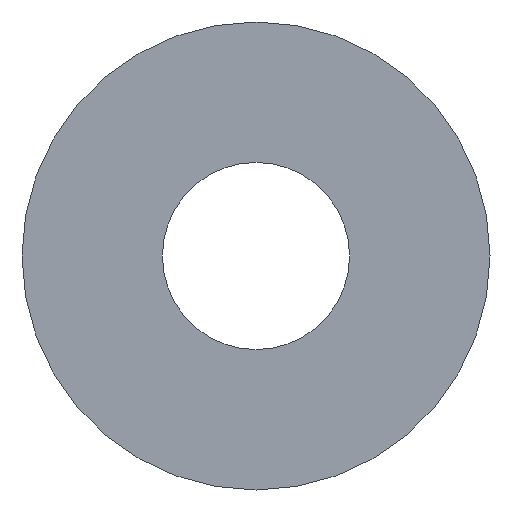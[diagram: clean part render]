
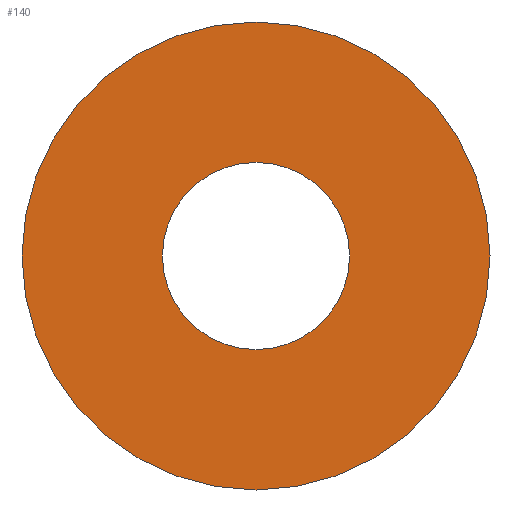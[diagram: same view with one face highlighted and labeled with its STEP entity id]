
A CAD part, left-side view. The second image highlights one B-rep face of the part: STEP entity #140.
In plain terms, the highlighted planar face has unit normal (-1, 0, 0).
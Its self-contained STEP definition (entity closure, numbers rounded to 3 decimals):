
#31 = CYLINDRICAL_SURFACE('',#32,30.);
#32 = AXIS2_PLACEMENT_3D('',#33,#34,#35);
#33 = CARTESIAN_POINT('',(-259.,0.,0.));
#34 = DIRECTION('',(1.,0.,0.));
#35 = DIRECTION('',(-0.,0.,1.));
#56 = VERTEX_POINT('',#57);
#57 = CARTESIAN_POINT('',(-259.,0.,30.));
#78 = EDGE_CURVE('',#56,#56,#79,.T.);
#79 = SURFACE_CURVE('',#80,(#85,#92),.PCURVE_S1.);
#80 = CIRCLE('',#81,30.);
#81 = AXIS2_PLACEMENT_3D('',#82,#83,#84);
#82 = CARTESIAN_POINT('',(-259.,0.,0.));
#83 = DIRECTION('',(1.,0.,0.));
#84 = DIRECTION('',(-0.,0.,1.));
#85 = PCURVE('',#31,#86);
#86 = DEFINITIONAL_REPRESENTATION('',(#87),#91);
#87 = LINE('',#88,#89);
#88 = CARTESIAN_POINT('',(0.,0.));
#89 = VECTOR('',#90,1.);
#90 = DIRECTION('',(1.,0.));
#91 = ( GEOMETRIC_REPRESENTATION_CONTEXT(2) 
PARAMETRIC_REPRESENTATION_CONTEXT() REPRESENTATION_CONTEXT('2D SPACE',''
  ) );
#92 = PCURVE('',#93,#98);
#93 = PLANE('',#94);
#94 = AXIS2_PLACEMENT_3D('',#95,#96,#97);
#95 = CARTESIAN_POINT('',(-259.,0.,0.));
#96 = DIRECTION('',(1.,0.,0.));
#97 = DIRECTION('',(-0.,0.,1.));
#98 = DEFINITIONAL_REPRESENTATION('',(#99),#103);
#99 = CIRCLE('',#100,30.);
#100 = AXIS2_PLACEMENT_2D('',#101,#102);
#101 = CARTESIAN_POINT('',(0.,0.));
#102 = DIRECTION('',(1.,0.));
#103 = ( GEOMETRIC_REPRESENTATION_CONTEXT(2) 
PARAMETRIC_REPRESENTATION_CONTEXT() REPRESENTATION_CONTEXT('2D SPACE',''
  ) );
#129 = CYLINDRICAL_SURFACE('',#130,12.);
#130 = AXIS2_PLACEMENT_3D('',#131,#132,#133);
#131 = CARTESIAN_POINT('',(-260.,0.,0.));
#132 = DIRECTION('',(1.,0.,0.));
#133 = DIRECTION('',(-0.,0.,1.));
#140 = ADVANCED_FACE('',(#141,#144),#93,.F.);
#141 = FACE_BOUND('',#142,.F.);
#142 = EDGE_LOOP('',(#143));
#143 = ORIENTED_EDGE('',*,*,#78,.T.);
#144 = FACE_BOUND('',#145,.F.);
#145 = EDGE_LOOP('',(#146));
#146 = ORIENTED_EDGE('',*,*,#147,.F.);
#147 = EDGE_CURVE('',#148,#148,#150,.T.);
#148 = VERTEX_POINT('',#149);
#149 = CARTESIAN_POINT('',(-259.,0.,12.));
#150 = SURFACE_CURVE('',#151,(#156,#163),.PCURVE_S1.);
#151 = CIRCLE('',#152,12.);
#152 = AXIS2_PLACEMENT_3D('',#153,#154,#155);
#153 = CARTESIAN_POINT('',(-259.,0.,0.));
#154 = DIRECTION('',(1.,0.,0.));
#155 = DIRECTION('',(-0.,0.,1.));
#156 = PCURVE('',#93,#157);
#157 = DEFINITIONAL_REPRESENTATION('',(#158),#162);
#158 = CIRCLE('',#159,12.);
#159 = AXIS2_PLACEMENT_2D('',#160,#161);
#160 = CARTESIAN_POINT('',(0.,0.));
#161 = DIRECTION('',(1.,0.));
#162 = ( GEOMETRIC_REPRESENTATION_CONTEXT(2) 
PARAMETRIC_REPRESENTATION_CONTEXT() REPRESENTATION_CONTEXT('2D SPACE',''
  ) );
#163 = PCURVE('',#129,#164);
#164 = DEFINITIONAL_REPRESENTATION('',(#165),#169);
#165 = LINE('',#166,#167);
#166 = CARTESIAN_POINT('',(0.,1.));
#167 = VECTOR('',#168,1.);
#168 = DIRECTION('',(1.,0.));
#169 = ( GEOMETRIC_REPRESENTATION_CONTEXT(2) 
PARAMETRIC_REPRESENTATION_CONTEXT() REPRESENTATION_CONTEXT('2D SPACE',''
  ) );
